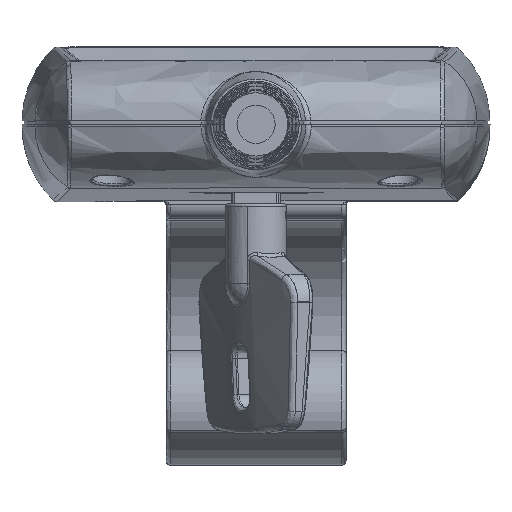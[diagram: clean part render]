
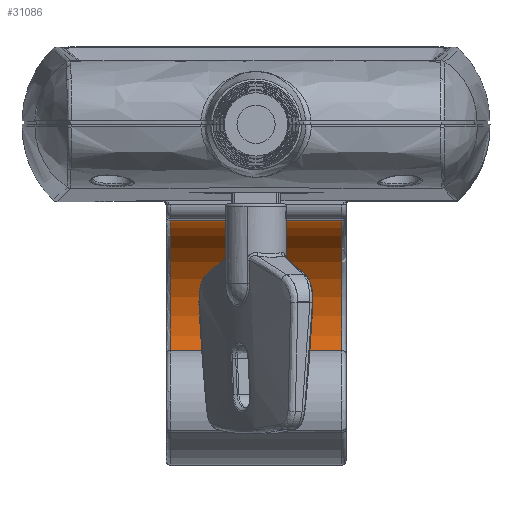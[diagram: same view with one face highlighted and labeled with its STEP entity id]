
A CAD part, front view. The second image highlights one B-rep face of the part: STEP entity #31086.
In plain terms, the highlighted cylindrical face has radius 16 mm (diameter 32 mm), a partial arc.
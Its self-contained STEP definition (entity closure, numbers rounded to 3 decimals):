
#2600 = CARTESIAN_POINT ( 'NONE',  ( 11.9, 100.804, -45.347 ) ) ;
#4657 = CARTESIAN_POINT ( 'NONE',  ( 13.09, 100.804, -29.347 ) ) ;
#5784 = CARTESIAN_POINT ( 'NONE',  ( 11.9, 100.804, -29.347 ) ) ;
#8951 = EDGE_CURVE ( 'NONE', #44036, #10500, #54669, .T. ) ;
#9364 = DIRECTION ( 'NONE',  ( 1., 0., 0. ) ) ;
#10440 = CARTESIAN_POINT ( 'NONE',  ( 0., 86.303, -36.109 ) ) ;
#10500 = VERTEX_POINT ( 'NONE', #16082 ) ;
#12296 = AXIS2_PLACEMENT_3D ( 'NONE', #30809, #88825, #39041 ) ;
#14139 = DIRECTION ( 'NONE',  ( 0., 0., 1. ) ) ;
#16082 = CARTESIAN_POINT ( 'NONE',  ( 11.9, 86.303, -36.109 ) ) ;
#16664 = EDGE_CURVE ( 'NONE', #89180, #26066, #58475, .T. ) ;
#19551 = CARTESIAN_POINT ( 'NONE',  ( -11.9, 86.303, -36.109 ) ) ;
#23415 = EDGE_CURVE ( 'NONE', #79363, #89180, #80886, .T. ) ;
#24114 = EDGE_LOOP ( 'NONE', ( #28267, #31552, #34750, #38203, #42032, #44800 ) ) ;
#25591 = EDGE_CURVE ( 'NONE', #40794, #79363, #89078, .T. ) ;
#26047 = CARTESIAN_POINT ( 'NONE',  ( -11.9, 100.804, -29.347 ) ) ;
#26066 = VERTEX_POINT ( 'NONE', #2600 ) ;
#27676 = DIRECTION ( 'NONE',  ( 1., 0., 0. ) ) ;
#28267 = ORIENTED_EDGE ( 'NONE', *, *, #16664, .F. ) ;
#28938 = VECTOR ( 'NONE', #9364, 1000. ) ;
#30809 = CARTESIAN_POINT ( 'NONE',  ( -11.9, 100.804, -29.347 ) ) ;
#31086 = ADVANCED_FACE ( 'NONE', ( #39744 ), #39960, .F. ) ;
#31552 = ORIENTED_EDGE ( 'NONE', *, *, #23415, .F. ) ;
#31869 = EDGE_CURVE ( 'NONE', #44036, #40794, #42512, .T. ) ;
#34293 = DIRECTION ( 'NONE',  ( 0., 1., 0. ) ) ;
#34750 = ORIENTED_EDGE ( 'NONE', *, *, #25591, .F. ) ;
#37383 = DIRECTION ( 'NONE',  ( -1., 0., 0. ) ) ;
#38203 = ORIENTED_EDGE ( 'NONE', *, *, #31869, .F. ) ;
#39041 = DIRECTION ( 'NONE',  ( 0., 1., 0. ) ) ;
#39744 = FACE_OUTER_BOUND ( 'NONE', #24114, .T. ) ;
#39960 = CYLINDRICAL_SURFACE ( 'NONE', #89765, 16. ) ;
#40794 = VERTEX_POINT ( 'NONE', #43908 ) ;
#42032 = ORIENTED_EDGE ( 'NONE', *, *, #8951, .T. ) ;
#42512 = CIRCLE ( 'NONE', #12296, 16. ) ;
#43908 = CARTESIAN_POINT ( 'NONE',  ( -11.9, 100.804, -45.347 ) ) ;
#44036 = VERTEX_POINT ( 'NONE', #19551 ) ;
#44800 = ORIENTED_EDGE ( 'NONE', *, *, #62668, .F. ) ;
#46175 = CARTESIAN_POINT ( 'NONE',  ( 11.9, 100.804, -29.347 ) ) ;
#52077 = AXIS2_PLACEMENT_3D ( 'NONE', #26047, #83968, #34293 ) ;
#54494 = DIRECTION ( 'NONE',  ( 0., 0., 1. ) ) ;
#54669 = LINE ( 'NONE', #10440, #28938 ) ;
#58475 = CIRCLE ( 'NONE', #88928, 16. ) ;
#60280 = AXIS2_PLACEMENT_3D ( 'NONE', #5784, #63391, #14139 ) ;
#62281 = DIRECTION ( 'NONE',  ( 0., 0., 1. ) ) ;
#62668 = EDGE_CURVE ( 'NONE', #26066, #10500, #88560, .T. ) ;
#63391 = DIRECTION ( 'NONE',  ( -1., 0., 0. ) ) ;
#73128 = CARTESIAN_POINT ( 'NONE',  ( -11.9, 101., -13.348 ) ) ;
#77284 = CARTESIAN_POINT ( 'NONE',  ( 11.9, 101., -13.348 ) ) ;
#79363 = VERTEX_POINT ( 'NONE', #73128 ) ;
#80554 = VECTOR ( 'NONE', #27676, 1000. ) ;
#80886 = LINE ( 'NONE', #94116, #80554 ) ;
#83968 = DIRECTION ( 'NONE',  ( 1., 0., 0. ) ) ;
#88560 = CIRCLE ( 'NONE', #60280, 16. ) ;
#88825 = DIRECTION ( 'NONE',  ( 1., 0., 0. ) ) ;
#88928 = AXIS2_PLACEMENT_3D ( 'NONE', #46175, #104447, #54494 ) ;
#89078 = CIRCLE ( 'NONE', #52077, 16. ) ;
#89180 = VERTEX_POINT ( 'NONE', #77284 ) ;
#89765 = AXIS2_PLACEMENT_3D ( 'NONE', #4657, #37383, #62281 ) ;
#94116 = CARTESIAN_POINT ( 'NONE',  ( 0., 101., -13.348 ) ) ;
#104447 = DIRECTION ( 'NONE',  ( -1., 0., 0. ) ) ;
